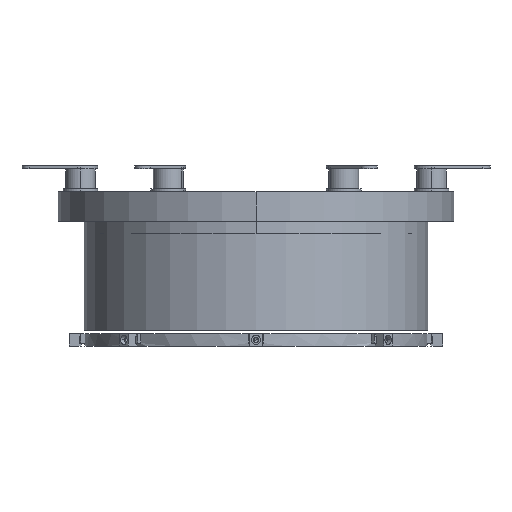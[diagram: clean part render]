
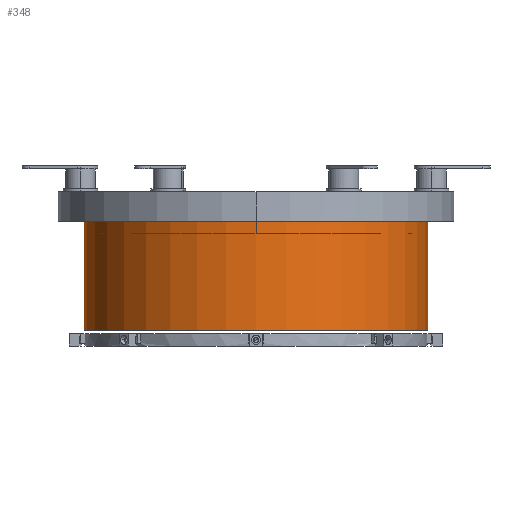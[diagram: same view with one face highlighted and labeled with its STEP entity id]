
A CAD part, left-side view. The second image highlights one B-rep face of the part: STEP entity #348.
In plain terms, the highlighted cylindrical face has radius 347 mm (diameter 694 mm), a partial arc.
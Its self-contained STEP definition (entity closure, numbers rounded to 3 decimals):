
#63 = EDGE_LOOP ( 'NONE', ( #2323, #4732, #2581, #3583 ) ) ;
#222 = VERTEX_POINT ( 'NONE', #4052 ) ;
#308 = CARTESIAN_POINT ( 'NONE',  ( 0., 220., 347. ) ) ;
#328 = DIRECTION ( 'NONE',  ( 0., -1., 0. ) ) ;
#348 = ADVANCED_FACE ( 'NONE', ( #1015 ), #1900, .T. ) ;
#446 = VECTOR ( 'NONE', #328, 1000. ) ;
#459 = VECTOR ( 'NONE', #636, 1000. ) ;
#472 = EDGE_CURVE ( 'NONE', #2483, #612, #1573, .T. ) ;
#573 = LINE ( 'NONE', #308, #446 ) ;
#598 = DIRECTION ( 'NONE',  ( 0., 0., 1. ) ) ;
#612 = VERTEX_POINT ( 'NONE', #2690 ) ;
#636 = DIRECTION ( 'NONE',  ( 0., -1., 0. ) ) ;
#668 = CARTESIAN_POINT ( 'NONE',  ( 0., 220., 0. ) ) ;
#817 = DIRECTION ( 'NONE',  ( 0., 1., 0. ) ) ;
#897 = EDGE_CURVE ( 'NONE', #4415, #2483, #2643, .T. ) ;
#1015 = FACE_OUTER_BOUND ( 'NONE', #63, .T. ) ;
#1532 = CIRCLE ( 'NONE', #3584, 347. ) ;
#1573 = CIRCLE ( 'NONE', #4875, 347. ) ;
#1900 = CYLINDRICAL_SURFACE ( 'NONE', #2773, 347. ) ;
#1921 = DIRECTION ( 'NONE',  ( 0., 1., 0. ) ) ;
#2105 = CARTESIAN_POINT ( 'NONE',  ( 0., 0., 0. ) ) ;
#2323 = ORIENTED_EDGE ( 'NONE', *, *, #2840, .F. ) ;
#2483 = VERTEX_POINT ( 'NONE', #4435 ) ;
#2581 = ORIENTED_EDGE ( 'NONE', *, *, #897, .T. ) ;
#2643 = LINE ( 'NONE', #3248, #459 ) ;
#2690 = CARTESIAN_POINT ( 'NONE',  ( 0., 0., 347. ) ) ;
#2773 = AXIS2_PLACEMENT_3D ( 'NONE', #668, #2843, #3764 ) ;
#2840 = EDGE_CURVE ( 'NONE', #222, #612, #573, .T. ) ;
#2843 = DIRECTION ( 'NONE',  ( 0., -1., 0. ) ) ;
#2987 = DIRECTION ( 'NONE',  ( 0., 0., 1. ) ) ;
#3248 = CARTESIAN_POINT ( 'NONE',  ( 0., 220., -347. ) ) ;
#3583 = ORIENTED_EDGE ( 'NONE', *, *, #472, .T. ) ;
#3584 = AXIS2_PLACEMENT_3D ( 'NONE', #4993, #1921, #598 ) ;
#3764 = DIRECTION ( 'NONE',  ( 0., 0., -1. ) ) ;
#4052 = CARTESIAN_POINT ( 'NONE',  ( 0., 220., 347. ) ) ;
#4415 = VERTEX_POINT ( 'NONE', #5619 ) ;
#4435 = CARTESIAN_POINT ( 'NONE',  ( 0., 0., -347. ) ) ;
#4678 = EDGE_CURVE ( 'NONE', #4415, #222, #1532, .T. ) ;
#4732 = ORIENTED_EDGE ( 'NONE', *, *, #4678, .F. ) ;
#4875 = AXIS2_PLACEMENT_3D ( 'NONE', #2105, #817, #2987 ) ;
#4993 = CARTESIAN_POINT ( 'NONE',  ( 0., 220., 0. ) ) ;
#5619 = CARTESIAN_POINT ( 'NONE',  ( 0., 220., -347. ) ) ;
